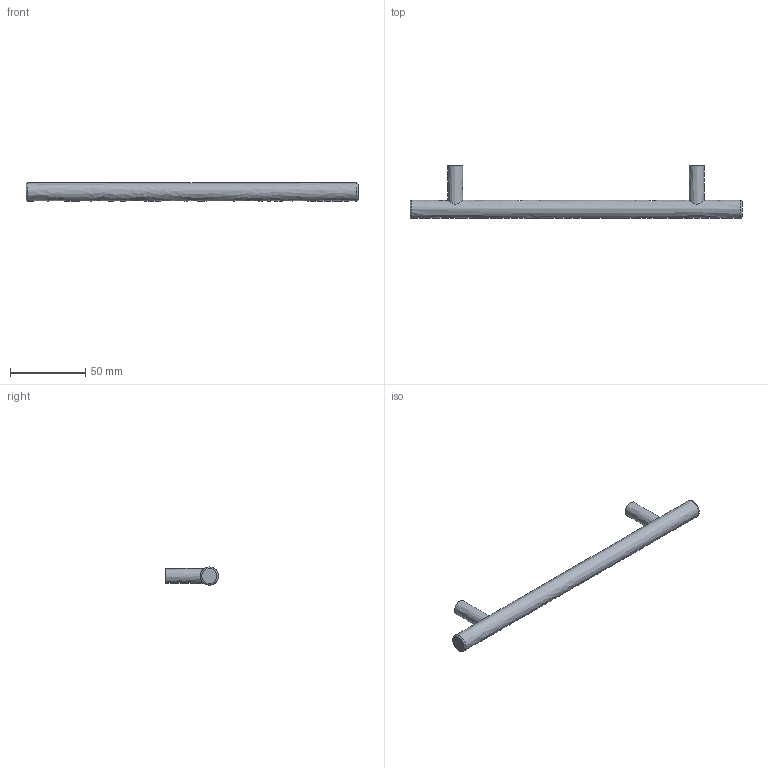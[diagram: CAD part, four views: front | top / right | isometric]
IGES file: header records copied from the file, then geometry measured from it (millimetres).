
Start section: Data from Parasolid IGES Translator 15.0.47, Copyright(c) 2006 Siemens P LM Software. All Rights Reserved.
Global section: file name: 9070796.igs; native system:  By UGS Corp.; preprocessor: XPlus GENERIC/IGES 3.0; author: Noname; organization: Noname; date: 20140123.103841; units: millimetre
Bounding box: 220 x 35 x 12 mm (x, y, z)
Surface area: 10191.5 mm2 (no closed solid volume)
Topology: 0 solids, 0 shells, 13 faces, 42 edges, 34 vertices
Faces by surface type: revolution 7, extrusion 6
